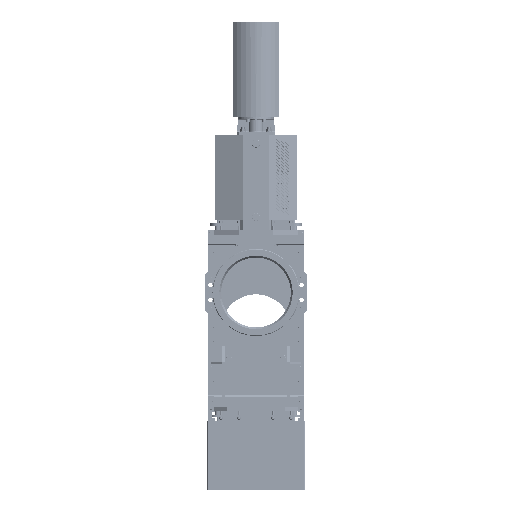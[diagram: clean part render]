
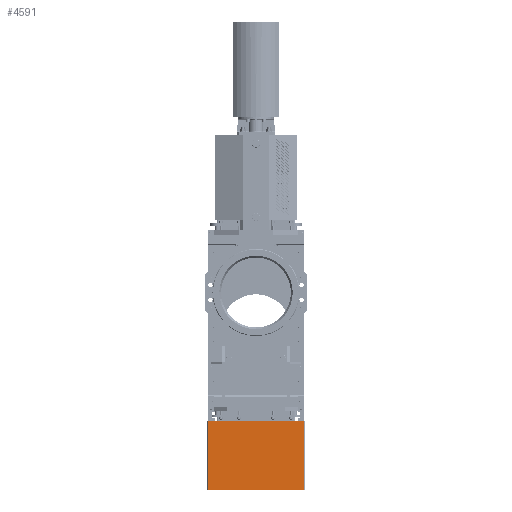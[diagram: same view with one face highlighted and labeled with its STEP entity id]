
A CAD part, left-side view. The second image highlights one B-rep face of the part: STEP entity #4591.
In plain terms, the highlighted planar face has unit normal (-1, 0, 0).
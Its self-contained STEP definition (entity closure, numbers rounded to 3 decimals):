
#4591=ADVANCED_FACE('',(#13807),#13808,.F.);
#13807=FACE_OUTER_BOUND('',#23917,.T.);
#13808=PLANE('',#23918);
#23917=EDGE_LOOP('',(#56631,#56632,#56633,#56634));
#23918=AXIS2_PLACEMENT_3D('',#56635,#56636,#56637);
#56631=ORIENTED_EDGE('',*,*,#71103,.F.);
#56632=ORIENTED_EDGE('',*,*,#71073,.F.);
#56633=ORIENTED_EDGE('',*,*,#71101,.F.);
#56634=ORIENTED_EDGE('',*,*,#71089,.F.);
#56635=CARTESIAN_POINT('',(-38.373,-0.5,-997.5));
#56636=DIRECTION('',(1.,0.,0.));
#56637=DIRECTION('',(0.,0.,-1.));
#71073=EDGE_CURVE('',#88262,#88264,#88265,.T.);
#71089=EDGE_CURVE('',#88290,#88292,#88293,.T.);
#71101=EDGE_CURVE('',#88292,#88262,#88310,.T.);
#71103=EDGE_CURVE('',#88264,#88290,#88312,.T.);
#88262=VERTEX_POINT('',#129484);
#88264=VERTEX_POINT('',#129486);
#88265=LINE('',#129487,#129488);
#88290=VERTEX_POINT('',#129524);
#88292=VERTEX_POINT('',#129526);
#88293=LINE('',#129527,#129528);
#88310=LINE('',#129555,#129556);
#88312=LINE('',#129559,#129560);
#129484=CARTESIAN_POINT('',(-38.373,295.,-1210.));
#129486=CARTESIAN_POINT('',(-38.373,295.,-785.));
#129487=CARTESIAN_POINT('',(-38.373,295.,-1210.));
#129488=VECTOR('',#147808,10.);
#129524=CARTESIAN_POINT('',(-38.373,-296.,-785.));
#129526=CARTESIAN_POINT('',(-38.373,-296.,-1210.));
#129527=CARTESIAN_POINT('',(-38.373,-296.,-785.));
#129528=VECTOR('',#147832,10.);
#129555=CARTESIAN_POINT('',(-38.373,-296.,-1210.));
#129556=VECTOR('',#147846,10.);
#129559=CARTESIAN_POINT('',(-38.373,295.,-785.));
#129560=VECTOR('',#147848,10.);
#147808=DIRECTION('',(0.,0.,1.));
#147832=DIRECTION('',(0.,0.,-1.));
#147846=DIRECTION('',(0.,1.,0.));
#147848=DIRECTION('',(0.,-1.,0.));
